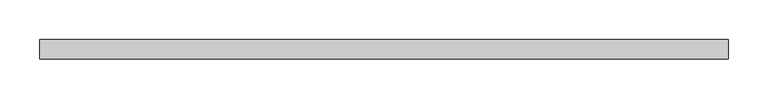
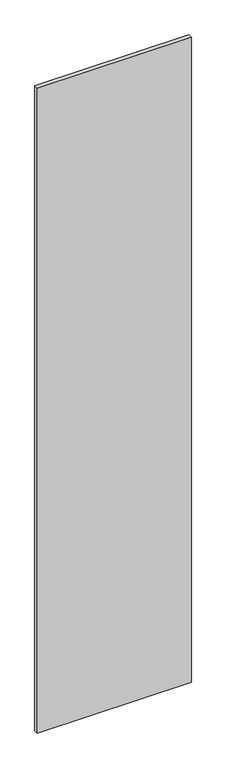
"""IFC4 building model written with IfcOpenShell, lengths in millimetres: plate geometry, 系统嵌板 : 玻璃."""

from ifc_helpers import new_model, si_unit, origin, origin_with_axes, place, context, project, spatial, polyline, outline, extrude, source, transform, mapped, element, save


def plate_da5828c7(model_context):
    return source(origin(), model_context, "Body", "SweptSolid", [
        extrude(outline(polyline([(435.8333333, -12.5), (-435.8333333, -12.5), (-435.8333333, 12.5), (435.8333333, 12.5), (435.8333333, -12.5)])), origin_with_axes(), (0.0, 0.0, 1.0), 3855.0),
    ])


if __name__ == "__main__":
    model = new_model("IFC4")
    model_context = context("Model", 3, world=origin())
    ifc_project = project(units=[si_unit("LENGTHUNIT", "METRE", prefix="MILLI")], contexts=[model_context])
    site = spatial("IfcSite", under=ifc_project)
    building = spatial("IfcBuilding", under=site)
    placement = place(None, origin())
    plate_shape = plate_da5828c7(model_context)
    element("IfcPlate", 1, ObjectType="系统嵌板 : 玻璃", at=placement, inside=building, context=model_context, shape_type="MappedRepresentation", body=[
        mapped(plate_shape, transform((0.0, 0.0, 0.0), x_axis=(1.0, 0.0, 0.0), y_axis=(0.0, 1.0, 0.0), z_axis=(0.0, 0.0, 1.0))),
    ])
    save(model, "model.ifc")
